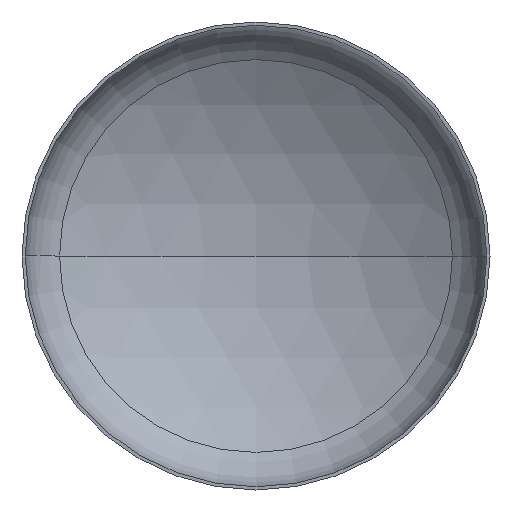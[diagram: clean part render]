
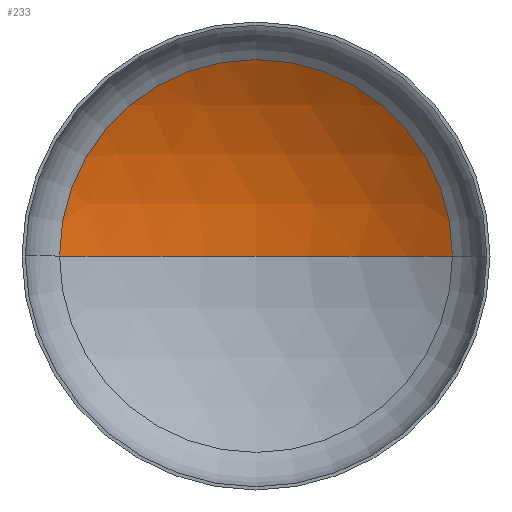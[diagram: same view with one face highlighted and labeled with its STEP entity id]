
A CAD part, front view. The second image highlights one B-rep face of the part: STEP entity #233.
In plain terms, the highlighted spherical face has radius 4800 mm.
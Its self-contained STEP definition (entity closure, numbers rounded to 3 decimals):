
#4 = CARTESIAN_POINT ( 'NONE',  ( 0., -3168.869, 0. ) ) ;
#36 = ORIENTED_EDGE ( 'NONE', *, *, #82, .T. ) ;
#42 = ORIENTED_EDGE ( 'NONE', *, *, #126, .T. ) ;
#74 = SPHERICAL_SURFACE ( 'NONE', #397, 4800. ) ;
#77 = AXIS2_PLACEMENT_3D ( 'NONE', #142, #140, #139 ) ;
#82 = EDGE_CURVE ( 'NONE', #302, #132, #285, .T. ) ;
#90 = FACE_OUTER_BOUND ( 'NONE', #191, .T. ) ;
#103 = CIRCLE ( 'NONE', #170, 4800. ) ;
#121 = CARTESIAN_POINT ( 'NONE',  ( -2518.297, 917.472, 0. ) ) ;
#126 = EDGE_CURVE ( 'NONE', #318, #302, #190, .T. ) ;
#132 = VERTEX_POINT ( 'NONE', #121 ) ;
#139 = DIRECTION ( 'NONE',  ( 1., 0., 0. ) ) ;
#140 = DIRECTION ( 'NONE',  ( 0., -1., 0. ) ) ;
#141 = CARTESIAN_POINT ( 'NONE',  ( 0., -3168.869, 0. ) ) ;
#142 = CARTESIAN_POINT ( 'NONE',  ( 0., 917.472, 0. ) ) ;
#149 = CARTESIAN_POINT ( 'NONE',  ( 0., 1631.131, 0. ) ) ;
#150 = EDGE_CURVE ( 'NONE', #318, #132, #103, .T. ) ;
#170 = AXIS2_PLACEMENT_3D ( 'NONE', #4, #350, #358 ) ;
#180 = ORIENTED_EDGE ( 'NONE', *, *, #150, .F. ) ;
#181 = CARTESIAN_POINT ( 'NONE',  ( 2518.297, 917.472, 0. ) ) ;
#190 = CIRCLE ( 'NONE', #194, 4800. ) ;
#191 = EDGE_LOOP ( 'NONE', ( #180, #42, #36 ) ) ;
#194 = AXIS2_PLACEMENT_3D ( 'NONE', #220, #221, #226 ) ;
#220 = CARTESIAN_POINT ( 'NONE',  ( 0., -3168.869, 0. ) ) ;
#221 = DIRECTION ( 'NONE',  ( 0., 0., -1. ) ) ;
#226 = DIRECTION ( 'NONE',  ( -1., 0., 0. ) ) ;
#233 = ADVANCED_FACE ( 'NONE', ( #90 ), #74, .F. ) ;
#270 = DIRECTION ( 'NONE',  ( 0., 0., -1. ) ) ;
#285 = CIRCLE ( 'NONE', #77, 2518.297 ) ;
#302 = VERTEX_POINT ( 'NONE', #181 ) ;
#318 = VERTEX_POINT ( 'NONE', #149 ) ;
#350 = DIRECTION ( 'NONE',  ( 0., 0., 1. ) ) ;
#358 = DIRECTION ( 'NONE',  ( 1., 0., 0. ) ) ;
#365 = DIRECTION ( 'NONE',  ( -1., 0., 0. ) ) ;
#397 = AXIS2_PLACEMENT_3D ( 'NONE', #141, #270, #365 ) ;
